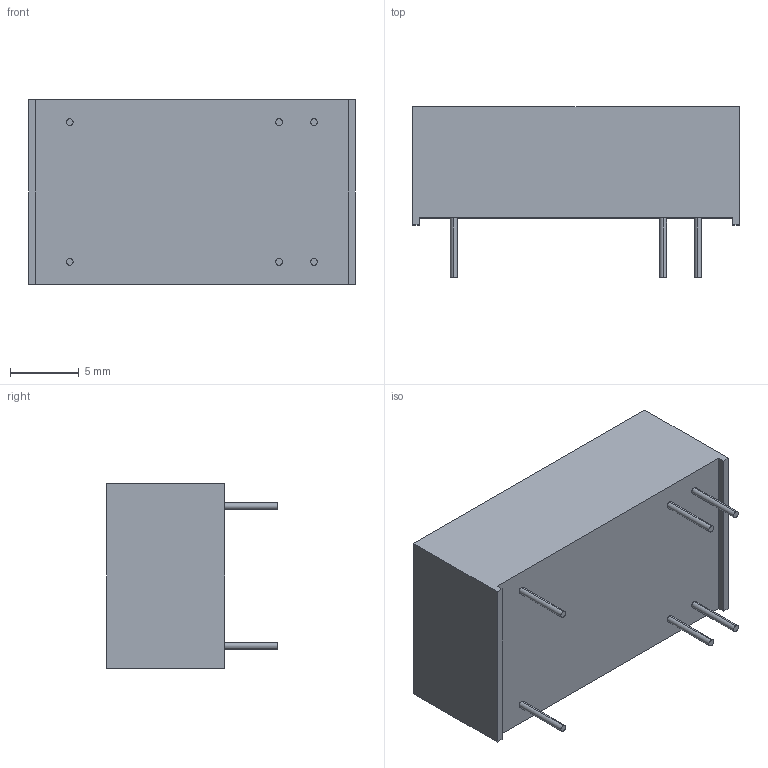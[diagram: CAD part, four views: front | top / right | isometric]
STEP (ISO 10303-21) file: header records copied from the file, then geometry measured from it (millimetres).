
FILE_DESCRIPTION (( 'STEP AP203' ), '1' );
FILE_NAME ('THI 2M Dual Output.STEP', '2020-11-13T08:05:12', ( '' ), ( '' ), 'SwSTEP 2.0', 'SolidWorks 2020', '' );
FILE_SCHEMA (( 'CONFIG_CONTROL_DESIGN' ));
Length unit declared in the file: millimetre
Products named in the file (1): THI 2M  Dual Output
Bounding box: 23.8 x 12.4 x 13.4 mm (x, y, z)
Volume: 2595 mm3; surface area: 1308.8 mm2
Topology: 1 solids, 1 shells, 28 faces, 60 edges, 40 vertices
Faces by surface type: plane 16, cylinder 12
Entity records: 845 total; most frequent: DIRECTION 142, CARTESIAN_POINT 129, ORIENTED_EDGE 120, EDGE_CURVE 60, AXIS2_PLACEMENT_3D 53, VERTEX_POINT 40, LINE 36, VECTOR 36
